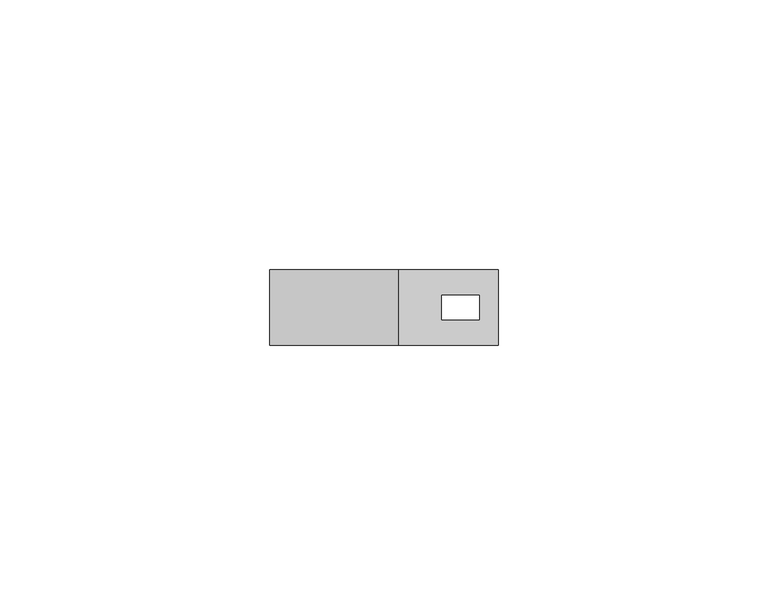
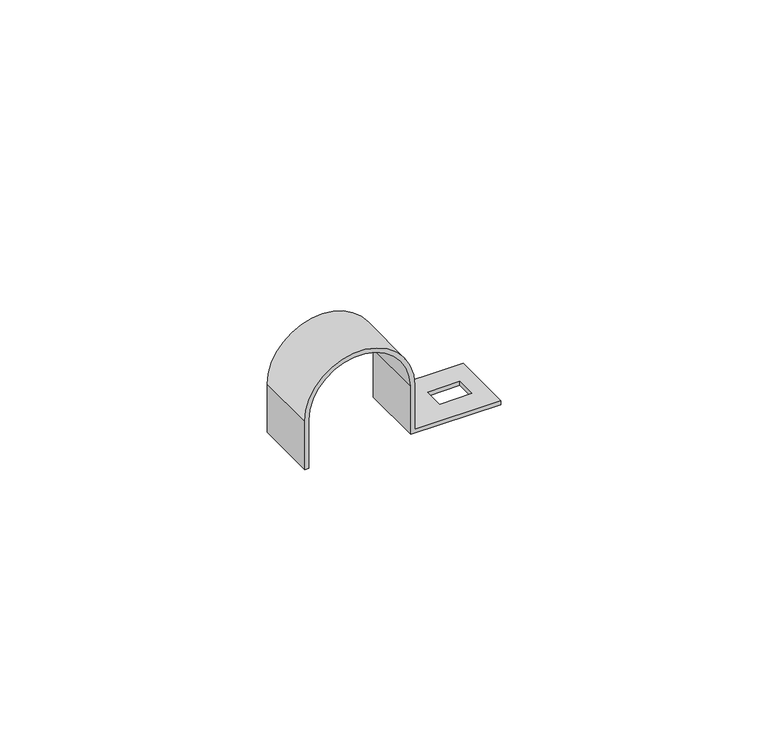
"""IFC4 building model written with IfcOpenShell, lengths in millimetres: cable carrier fitting geometry."""

from ifc_helpers import new_model, si_unit, frame, origin, place, context, project, spatial, polyline, circle_curve, source, transform, mapped, element, save
from ifc_brep_helpers import plane_surface, cylinder_surface, revolved_surface, advanced_brep


def cable_carrier_fitting_709250df(model_context):
    return source(origin(), model_context, "Body", "AdvancedBrep", [
        advanced_brep(
        [(30.5, -7.0, 0.0), (30.5, -7.0, 0.9), (11.9, -7.0, 0.9), (11.9, -7.0, 11.0), (-11.9, -7.0, 11.0), (-11.9, -7.0, 0.0), (-11.0, -7.0, 0.0), (-11.0, -7.0, 11.0), (11.0, -7.0, 11.0), (11.0, -7.0, 0.0), (30.5, 7.0, 0.0), (11.0, 7.0, 0.0), (11.0, 7.0, 11.0), (-11.0, 7.0, 11.0), (-11.0, 7.0, 0.0), (-11.9, 7.0, 0.0), (-11.9, 7.0, 11.0), (11.9, 7.0, 11.0), (11.9, 7.0, 0.9), (30.5, 7.0, 0.9), (27.0, -2.25, 0.9), (20.0, -2.25, 0.9), (20.0, 2.25, 0.9), (27.0, 2.25, 0.9), (20.0, -2.25, 0.0), (27.0, -2.25, 0.0), (27.0, 2.25, 0.0), (20.0, 2.25, 0.0)],
        [
            (0, 1),
            (1, 2),
            (2, 3),
            (3, 4, circle_curve(frame((0.0, -7.0, 11.0), z_axis=(0.0, -1.0, 0.0), x_axis=(1.0, 0.0, 0.0)), 11.9)),
            (4, 5),
            (5, 6),
            (6, 7),
            (7, 8, circle_curve(frame((0.0, -7.0, 11.0), z_axis=(0.0, 1.0, 0.0), x_axis=(1.0, 0.0, 0.0)), 11.0)),
            (8, 9),
            (9, 0),
            (10, 11),
            (11, 12),
            (12, 13, circle_curve(frame((0.0, 7.0, 11.0), z_axis=(0.0, -1.0, 0.0), x_axis=(1.0, 0.0, 0.0)), 11.0)),
            (13, 14),
            (14, 15),
            (15, 16),
            (16, 17, circle_curve(frame((0.0, 7.0, 11.0), z_axis=(0.0, 1.0, 0.0), x_axis=(1.0, 0.0, 0.0)), 11.9)),
            (17, 18),
            (18, 19),
            (19, 10),
            (0, 10),
            (19, 1),
            (18, 2),
            (20, 21),
            (21, 22),
            (22, 23),
            (23, 20),
            (17, 3),
            (16, 4),
            (15, 5),
            (14, 6),
            (13, 7),
            (12, 8),
            (11, 9),
            (24, 25),
            (25, 26),
            (26, 27),
            (27, 24),
            (24, 21),
            (20, 25),
            (23, 26),
            (22, 27),
        ],
        [
            plane_surface(frame((30.5, -7.0, 0.9), z_axis=(0.0, -1.0, 0.0), x_axis=(0.0, 0.0, 1.0))),
            plane_surface(frame((30.5, 7.0, 0.9), z_axis=(0.0, 1.0, 0.0), x_axis=(0.0, 0.0, -1.0))),
            plane_surface(frame((30.5, -7.0, 0.0), z_axis=(1.0, 0.0, 0.0), x_axis=(0.0, 1.0, 0.0))),
            plane_surface(frame((30.5, -7.0, 0.9), z_axis=(0.0, 0.0, 1.0), x_axis=(0.0, 1.0, 0.0))),
            plane_surface(frame((11.9, -7.0, 0.9), z_axis=(1.0, 0.0, 0.0), x_axis=(0.0, 1.0, 0.0))),
            cylinder_surface(frame((0.0, 7.0, 11.0), z_axis=(0.0, -1.0, 0.0), x_axis=(1.0, 0.0, 0.0)), 11.9),
            plane_surface(frame((-11.9, -7.0, 11.0), z_axis=(-1.0, 0.0, 0.0), x_axis=(0.0, 1.0, 0.0))),
            plane_surface(frame((-11.9, -7.0, 0.0), z_axis=(0.0, 0.0, -1.0), x_axis=(0.0, 1.0, 0.0))),
            plane_surface(frame((-11.0, -7.0, 0.0), z_axis=(1.0, 0.0, 0.0), x_axis=(0.0, 1.0, 0.0))),
            revolved_surface(polyline([(11.0, 7.0, 11.0), (11.0, -7.0, 11.0)]), (0.0, 7.0, 11.0), (0.0, 1.0, 0.0)),
            plane_surface(frame((11.0, -7.0, 11.0), z_axis=(-1.0, 0.0, 0.0), x_axis=(0.0, 1.0, 0.0))),
            plane_surface(frame((11.0, -7.0, 0.0), z_axis=(0.0, 0.0, -1.0), x_axis=(0.0, 1.0, 0.0))),
            plane_surface(frame((20.0, -2.25, 21.959409), z_axis=(0.0, 1.0, 0.0), x_axis=(0.0, 0.0, -1.0))),
            plane_surface(frame((27.0, -2.25, 21.959409), z_axis=(-1.0, 0.0, 0.0), x_axis=(0.0, 0.0, -1.0))),
            plane_surface(frame((27.0, 2.25, 21.959409), z_axis=(0.0, -1.0, 0.0), x_axis=(0.0, 0.0, -1.0))),
            plane_surface(frame((20.0, 2.25, 21.959409), z_axis=(1.0, 0.0, 0.0), x_axis=(0.0, 0.0, -1.0))),
        ],
        [
            (0, [[1, 2, 3, 4, 5, 6, 7, 8, 9, 10]]),
            (1, [[11, 12, 13, 14, 15, 16, 17, 18, 19, 20]]),
            (2, [[-1, 21, -20, 22]]),
            (3, [[-2, -22, -19, 23], [24, 25, 26, 27]]),
            (4, [[-3, -23, -18, 28]]),
            (5, [[-4, -28, -17, 29]]),
            (6, [[-5, -29, -16, 30]]),
            (7, [[-6, -30, -15, 31]]),
            (8, [[-7, -31, -14, 32]]),
            (9, [[-8, -32, -13, 33]]),
            (10, [[-9, -33, -12, 34]]),
            (11, [[-10, -34, -11, -21], [35, 36, 37, 38]]),
            (12, [[39, -24, 40, -35]]),
            (13, [[-40, -27, 41, -36]]),
            (14, [[-41, -26, 42, -37]]),
            (15, [[-39, -38, -42, -25]]),
        ],
    ),
    ])


if __name__ == "__main__":
    model = new_model("IFC4")
    model_context = context("Model", 3, world=origin())
    ifc_project = project(units=[si_unit("LENGTHUNIT", "METRE", prefix="MILLI")], contexts=[model_context])
    site = spatial("IfcSite", under=ifc_project)
    building = spatial("IfcBuilding", under=site)
    placement = place(None, origin())
    cable_carrier_fitting_shape = cable_carrier_fitting_709250df(model_context)
    element("IfcCableCarrierFitting", 1, at=placement, inside=building, context=model_context, shape_type="MappedRepresentation", body=[
        mapped(cable_carrier_fitting_shape, transform((0.0, 0.0, 0.0), x_axis=(1.0, 0.0, 0.0), y_axis=(0.0, 1.0, 0.0), z_axis=(0.0, 0.0, 1.0))),
    ])
    save(model, "model.ifc")
